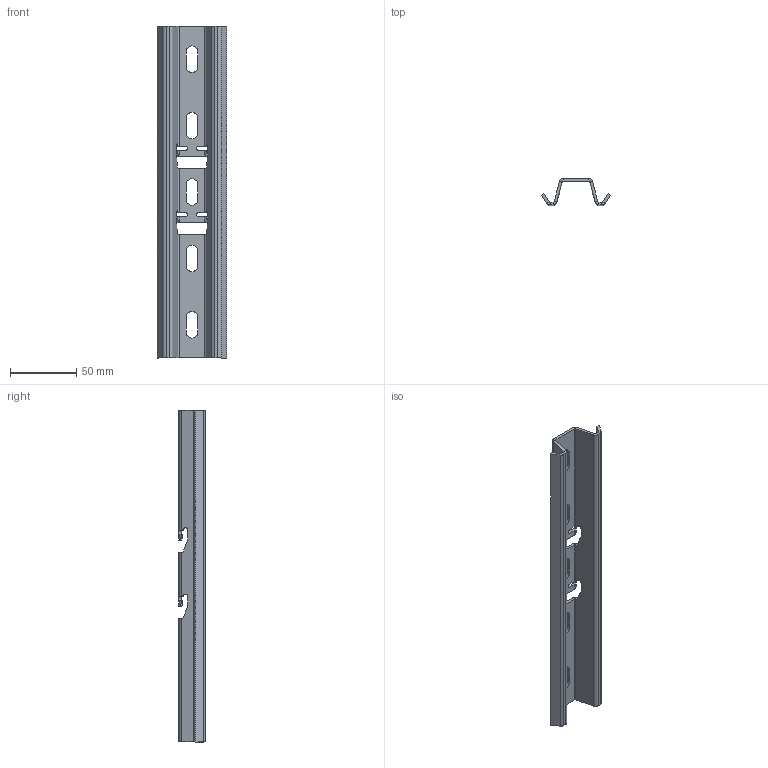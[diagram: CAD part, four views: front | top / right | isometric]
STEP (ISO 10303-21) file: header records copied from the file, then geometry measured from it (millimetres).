
FILE_DESCRIPTION (( 'STEP AP214' ), '1' );
FILE_NAME ('C-SVO_100.STEP', '2021-10-15T08:46:58', ( '' ), ( '' ), 'SwSTEP 2.0', 'SolidWorks 2019', '' );
FILE_SCHEMA (( 'AUTOMOTIVE_DESIGN' ));
Length unit declared in the file: millimetre
Products named in the file (1): C-SVO_100
Bounding box: 52 x 20 x 250 mm (x, y, z)
Volume: 38558.9 mm3; surface area: 40976.2 mm2
Topology: 1 solids, 1 shells, 167 faces, 411 edges, 242 vertices
Faces by surface type: plane 108, cylinder 55, bspline 4
Entity records: 4989 total; most frequent: CARTESIAN_POINT 985, DIRECTION 833, ORIENTED_EDGE 822, EDGE_CURVE 411, LINE 285, VECTOR 285, AXIS2_PLACEMENT_3D 274, VERTEX_POINT 242
